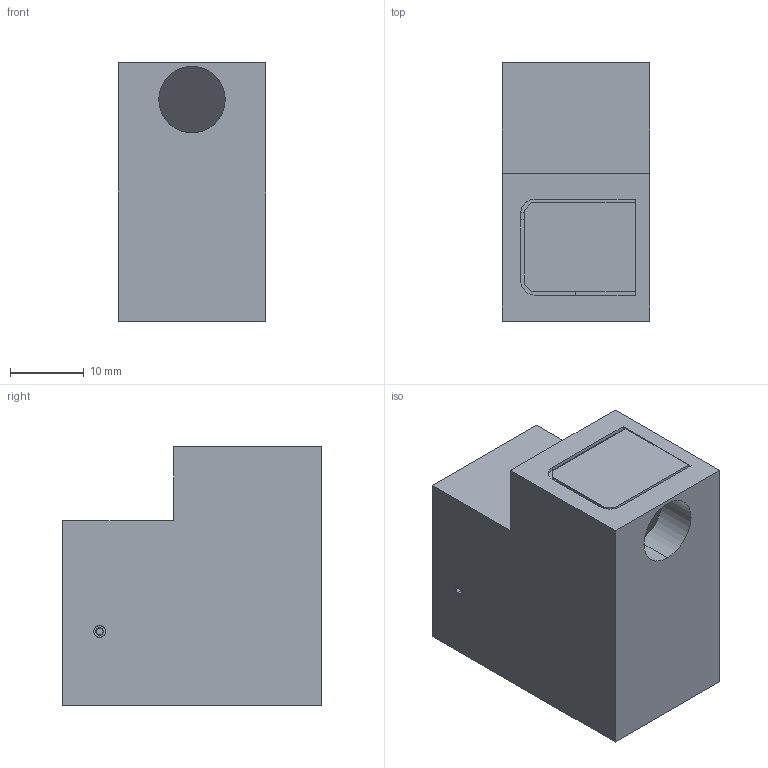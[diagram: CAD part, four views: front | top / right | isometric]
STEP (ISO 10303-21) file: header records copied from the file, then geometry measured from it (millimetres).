
FILE_DESCRIPTION (( 'STEP AP214' ), '1' );
FILE_NAME ('MML-P7.STEP', '2026-02-24T05:33:31', ( '' ), ( '' ), 'SwSTEP 2.0', 'SolidWorks 2025', '' );
FILE_SCHEMA (( 'AUTOMOTIVE_DESIGN' ));
Length unit declared in the file: millimetre
Products named in the file (1): MML-P7
Bounding box: 20 x 35 x 35 mm (x, y, z)
Volume: 13144.3 mm3; surface area: 8489.5 mm2
Topology: 1 solids, 8 shells, 359 faces, 886 edges, 548 vertices
Faces by surface type: plane 196, cone 70, cylinder 67, torus 20, sphere 6
Entity records: 10770 total; most frequent: CARTESIAN_POINT 2316, DIRECTION 1803, ORIENTED_EDGE 1732, EDGE_CURVE 866, AXIS2_PLACEMENT_3D 701, VERTEX_POINT 548, VECTOR 401, LINE 401
